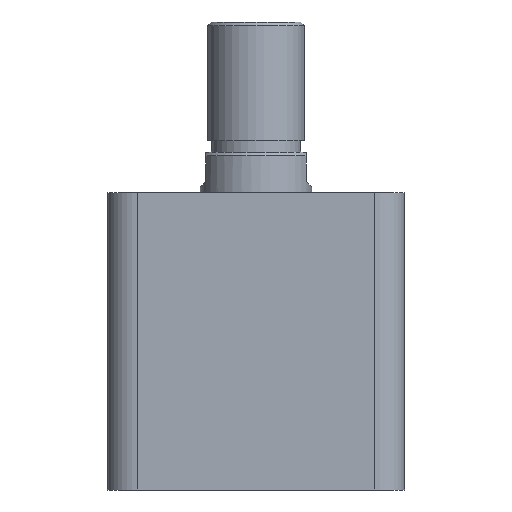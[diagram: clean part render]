
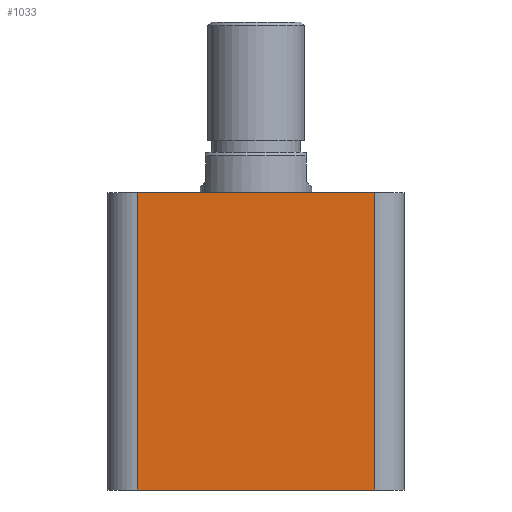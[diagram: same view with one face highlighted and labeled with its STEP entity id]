
A CAD part, front view. The second image highlights one B-rep face of the part: STEP entity #1033.
In plain terms, the highlighted planar face has unit normal (0, -1, 0).
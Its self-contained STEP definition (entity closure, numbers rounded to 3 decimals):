
#33 = AXIS2_PLACEMENT_3D ( 'NONE', #2396, #2386, #2385 ) ;
#81 = VERTEX_POINT ( 'NONE', #2700 ) ;
#99 = VERTEX_POINT ( 'NONE', #2723 ) ;
#227 = EDGE_LOOP ( 'NONE', ( #422, #419, #413, #438 ) ) ;
#413 = ORIENTED_EDGE ( 'NONE', *, *, #987, .T. ) ;
#419 = ORIENTED_EDGE ( 'NONE', *, *, #986, .T. ) ;
#422 = ORIENTED_EDGE ( 'NONE', *, *, #985, .F. ) ;
#438 = ORIENTED_EDGE ( 'NONE', *, *, #988, .T. ) ;
#668 = CARTESIAN_POINT ( 'NONE',  ( -32., -40., 80. ) ) ;
#985 = EDGE_CURVE ( 'NONE', #1613, #99, #1391, .T. ) ;
#986 = EDGE_CURVE ( 'NONE', #1613, #1665, #1387, .T. ) ;
#987 = EDGE_CURVE ( 'NONE', #1665, #81, #1402, .T. ) ;
#988 = EDGE_CURVE ( 'NONE', #81, #99, #1379, .T. ) ;
#1033 = ADVANCED_FACE ( 'NONE', ( #1274 ), #2389, .F. ) ;
#1274 = FACE_OUTER_BOUND ( 'NONE', #227, .T. ) ;
#1372 = VECTOR ( 'NONE', #2569, 1000. ) ;
#1377 = VECTOR ( 'NONE', #2573, 1000. ) ;
#1379 = LINE ( 'NONE', #2571, #1372 ) ;
#1381 = VECTOR ( 'NONE', #2574, 1000. ) ;
#1385 = VECTOR ( 'NONE', #2576, 1000. ) ;
#1387 = LINE ( 'NONE', #2575, #1381 ) ;
#1391 = LINE ( 'NONE', #2580, #1385 ) ;
#1402 = LINE ( 'NONE', #2600, #1377 ) ;
#1613 = VERTEX_POINT ( 'NONE', #668 ) ;
#1665 = VERTEX_POINT ( 'NONE', #1972 ) ;
#1972 = CARTESIAN_POINT ( 'NONE',  ( -32., -40., 0. ) ) ;
#2385 = DIRECTION ( 'NONE',  ( 0., 0., 1. ) ) ;
#2386 = DIRECTION ( 'NONE',  ( 0., 1., 0. ) ) ;
#2389 = PLANE ( 'NONE',  #33 ) ;
#2396 = CARTESIAN_POINT ( 'NONE',  ( -40., -40., 80. ) ) ;
#2569 = DIRECTION ( 'NONE',  ( 0., 0., 1. ) ) ;
#2571 = CARTESIAN_POINT ( 'NONE',  ( 32., -40., 80. ) ) ;
#2573 = DIRECTION ( 'NONE',  ( 1., 0., 0. ) ) ;
#2574 = DIRECTION ( 'NONE',  ( 0., 0., -1. ) ) ;
#2575 = CARTESIAN_POINT ( 'NONE',  ( -32., -40., 80. ) ) ;
#2576 = DIRECTION ( 'NONE',  ( 1., 0., 0. ) ) ;
#2580 = CARTESIAN_POINT ( 'NONE',  ( -40., -40., 80. ) ) ;
#2600 = CARTESIAN_POINT ( 'NONE',  ( -40., -40., 0. ) ) ;
#2700 = CARTESIAN_POINT ( 'NONE',  ( 32., -40., 0. ) ) ;
#2723 = CARTESIAN_POINT ( 'NONE',  ( 32., -40., 80. ) ) ;
